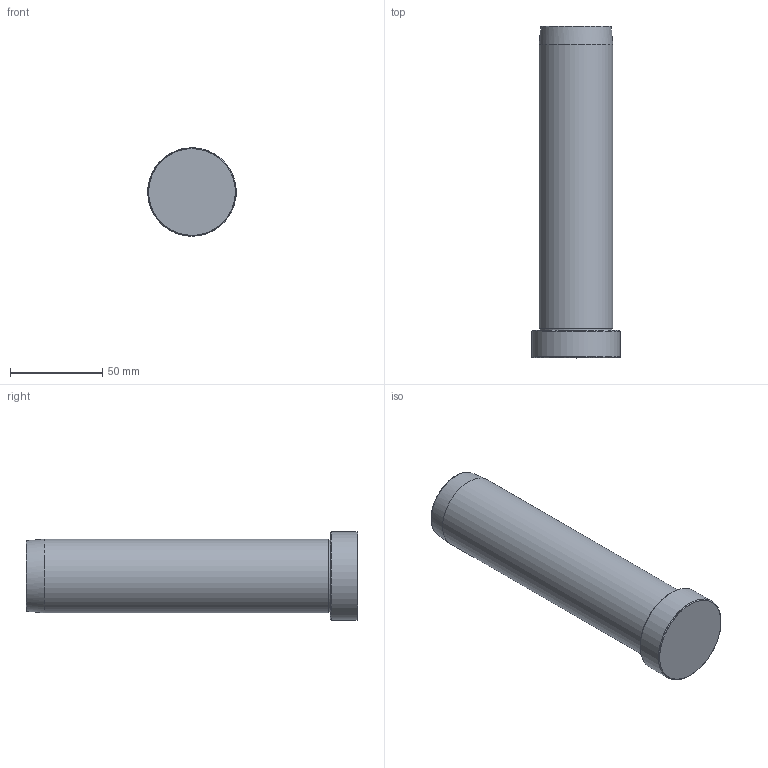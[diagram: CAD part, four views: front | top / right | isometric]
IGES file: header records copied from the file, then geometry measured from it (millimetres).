
Start section: Missler Software BP 521, 31674 Labege Cedex, France Tel   : +33 (0)5 61 00 03 00 Fax   : +33 (0)5 61 00 03 03 Email : sup.topsolid@topsolid.com
Global section: file name: D:\Cuma\24 03 2009\D01D\D01D_40X180.igs; native system: TopSolid v605250 Missler Software; preprocessor: IGES preprocessor v100000; date: 030101.001824; units: millimetre
Bounding box: 47.91 x 180 x 48 mm (x, y, z)
Surface area: 26480.4 mm2 (no closed solid volume)
Topology: 0 solids, 0 shells, 11 faces, 216 edges, 210 vertices
Faces by surface type: bspline 11
